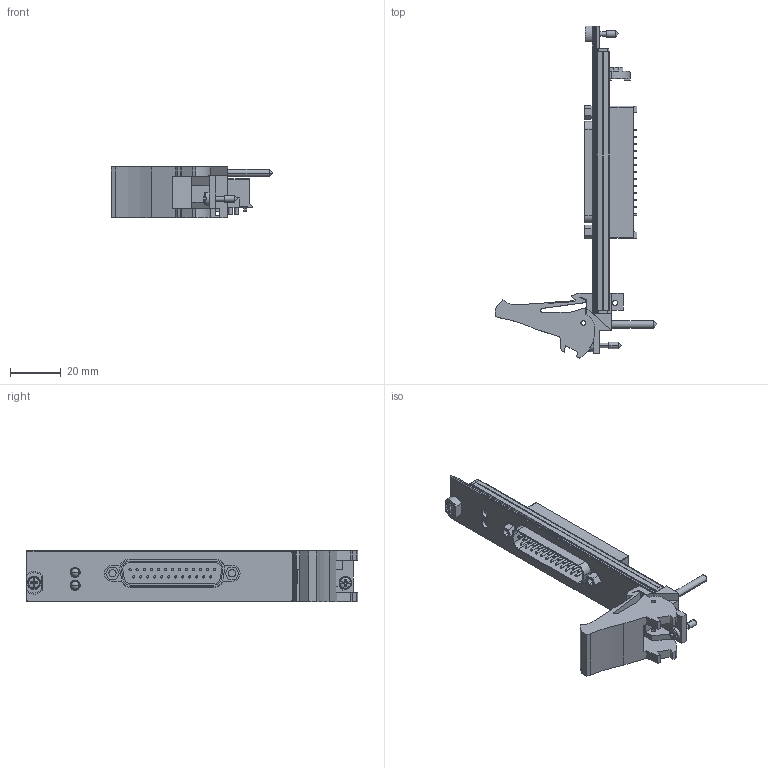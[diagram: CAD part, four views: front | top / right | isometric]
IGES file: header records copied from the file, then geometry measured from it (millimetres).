
Start section:  PTC IGES file: cu_pxie-4144.igs
Global section: file name: cu_pxie-4144.igs; native system: Pro/ENGINEER by Parametric Technology Corporation; preprocessor: 2011490; author: jjorden; organization: Unknown; date: 20121025.140903; units: inch
Bounding box: 63.53 x 130.5 x 20.32 mm (x, y, z)
Surface area: 20251.2 mm2 (no closed solid volume)
Topology: 0 solids, 0 shells, 722 faces, 3702 edges, 3694 vertices
Faces by surface type: bspline 495, revolution 227
